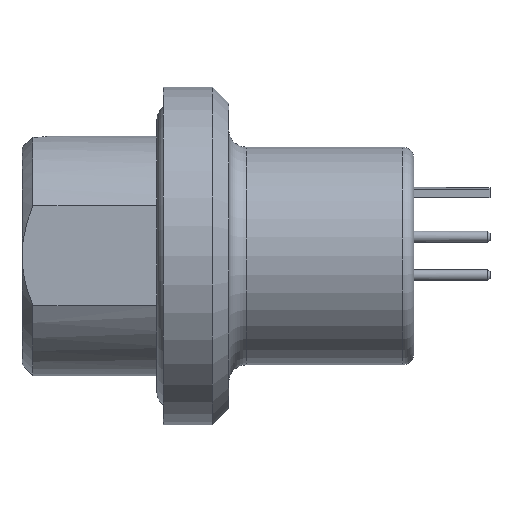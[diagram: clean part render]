
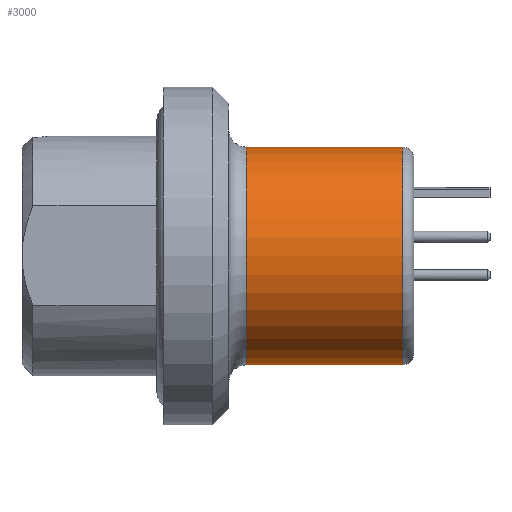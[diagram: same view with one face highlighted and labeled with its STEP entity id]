
A CAD part, top view. The second image highlights one B-rep face of the part: STEP entity #3000.
In plain terms, the highlighted cylindrical face has radius 5 mm (diameter 10 mm), a partial arc.
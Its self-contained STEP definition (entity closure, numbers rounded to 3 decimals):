
#327=CARTESIAN_POINT('',(5.5,0.,0.));
#328=DIRECTION('',(-1.,0.,0.));
#329=DIRECTION('',(0.,-1.,0.));
#330=AXIS2_PLACEMENT_3D('',#327,#328,#329);
#342=DIRECTION('',(1.,0.,0.));
#343=VECTOR('',#342,7.2);
#344=CARTESIAN_POINT('',(-1.7,-5.,0.));
#345=LINE('',#344,#343);
#346=DIRECTION('',(1.,0.,0.));
#347=VECTOR('',#346,7.2);
#348=CARTESIAN_POINT('',(-1.7,5.,0.));
#349=LINE('',#348,#347);
#350=CARTESIAN_POINT('',(-1.7,0.,0.));
#351=DIRECTION('',(1.,0.,0.));
#352=DIRECTION('',(0.,1.,0.));
#353=AXIS2_PLACEMENT_3D('',#350,#351,#352);
#2362=CARTESIAN_POINT('',(-1.7,5.,0.));
#2363=CARTESIAN_POINT('',(-1.7,-5.,0.));
#2364=VERTEX_POINT('',#2362);
#2365=VERTEX_POINT('',#2363);
#2366=CARTESIAN_POINT('',(5.5,-5.,0.));
#2367=CARTESIAN_POINT('',(5.5,5.,0.));
#2368=VERTEX_POINT('',#2366);
#2369=VERTEX_POINT('',#2367);
#2988=CARTESIAN_POINT('',(6.9,0.,0.));
#2989=DIRECTION('',(-1.,0.,0.));
#2990=DIRECTION('',(0.,-1.,0.));
#2991=AXIS2_PLACEMENT_3D('',#2988,#2989,#2990);
#2992=CYLINDRICAL_SURFACE('',#2991,5.);
#2993=ORIENTED_EDGE('',*,*,#2932,.F.);
#2994=ORIENTED_EDGE('',*,*,#2976,.F.);
#2996=ORIENTED_EDGE('',*,*,#2995,.F.);
#2997=ORIENTED_EDGE('',*,*,#2972,.T.);
#2998=EDGE_LOOP('',(#2993,#2994,#2996,#2997));
#2999=FACE_OUTER_BOUND('',#2998,.F.);
#331=CIRCLE('',#330,5.);
#354=CIRCLE('',#353,5.);
#2932=EDGE_CURVE('',#2368,#2369,#331,.T.);
#2972=EDGE_CURVE('',#2364,#2369,#349,.T.);
#2976=EDGE_CURVE('',#2365,#2368,#345,.T.);
#2995=EDGE_CURVE('',#2364,#2365,#354,.T.);
#3000=ADVANCED_FACE('',(#2999),#2992,.T.);
